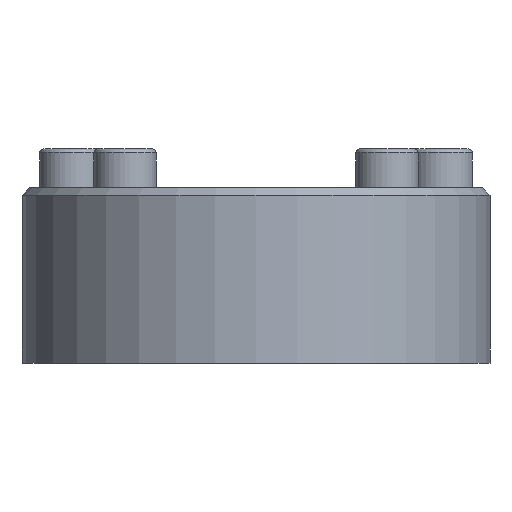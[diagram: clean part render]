
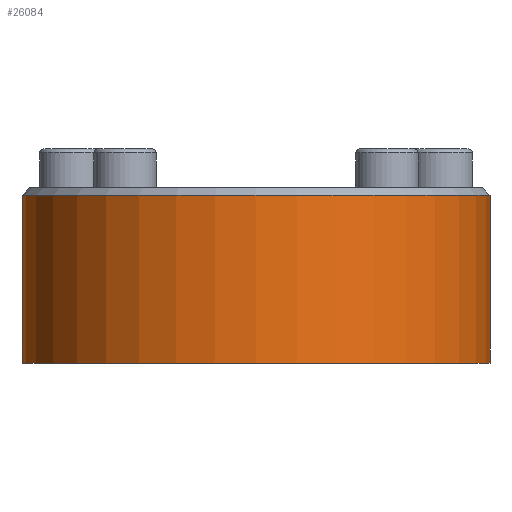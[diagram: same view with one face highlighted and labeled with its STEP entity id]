
A CAD part, front view. The second image highlights one B-rep face of the part: STEP entity #26084.
In plain terms, the highlighted cylindrical face has radius 60 mm (diameter 120 mm), a partial arc.
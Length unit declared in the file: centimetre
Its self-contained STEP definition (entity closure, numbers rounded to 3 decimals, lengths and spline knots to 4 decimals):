
#1571=CYLINDRICAL_SURFACE('',#27521,6.);
#3104=FACE_OUTER_BOUND('',#4623,.T.);
#4623=EDGE_LOOP('',(#19277,#19278,#19279,#19280));
#6737=LINE('',#37216,#9465);
#6738=LINE('',#37219,#9466);
#9465=VECTOR('',#29611,4.3);
#9466=VECTOR('',#29614,4.3);
#11380=CIRCLE('',#27522,6.);
#11381=CIRCLE('',#27523,6.);
#12674=VERTEX_POINT('',#37212);
#12675=VERTEX_POINT('',#37213);
#12676=VERTEX_POINT('',#37215);
#12677=VERTEX_POINT('',#37217);
#15254=EDGE_CURVE('',#12674,#12675,#11380,.T.);
#15255=EDGE_CURVE('',#12674,#12676,#6737,.T.);
#15256=EDGE_CURVE('',#12677,#12676,#11381,.T.);
#15257=EDGE_CURVE('',#12675,#12677,#6738,.T.);
#19277=ORIENTED_EDGE('',*,*,#15254,.F.);
#19278=ORIENTED_EDGE('',*,*,#15255,.T.);
#19279=ORIENTED_EDGE('',*,*,#15256,.F.);
#19280=ORIENTED_EDGE('',*,*,#15257,.F.);
#26084=ADVANCED_FACE('',(#3104),#1571,.T.);
#27521=AXIS2_PLACEMENT_3D('',#37211,#29607,#29608);
#27522=AXIS2_PLACEMENT_3D('',#37214,#29609,#29610);
#27523=AXIS2_PLACEMENT_3D('',#37218,#29612,#29613);
#29607=DIRECTION('center_axis',(0.,0.,
1.));
#29608=DIRECTION('ref_axis',(1.,0.,0.));
#29609=DIRECTION('center_axis',(0.,0.,
-1.));
#29610=DIRECTION('ref_axis',(1.,0.,0.));
#29611=DIRECTION('',(0.,0.,1.));
#29612=DIRECTION('center_axis',(0.,0.,
1.));
#29613=DIRECTION('ref_axis',(-1.,0.,0.));
#29614=DIRECTION('',(0.,0.,1.));
#37211=CARTESIAN_POINT('Origin',(0.,-18.,-3.3));
#37212=CARTESIAN_POINT('',(6.,-18.,-3.3));
#37213=CARTESIAN_POINT('',(-6.,-18.,-3.3));
#37214=CARTESIAN_POINT('Origin',(0.,-18.,-3.3));
#37215=CARTESIAN_POINT('',(6.,-18.,1.));
#37216=CARTESIAN_POINT('',(6.,-18.,-3.3));
#37217=CARTESIAN_POINT('',(-6.,-18.,1.));
#37218=CARTESIAN_POINT('Origin',(0.,-18.,1.));
#37219=CARTESIAN_POINT('',(-6.,-18.,-3.3));
